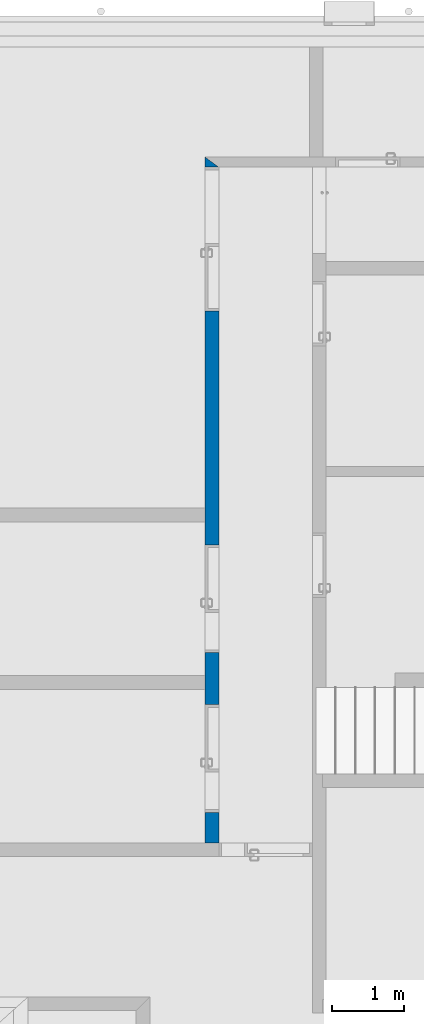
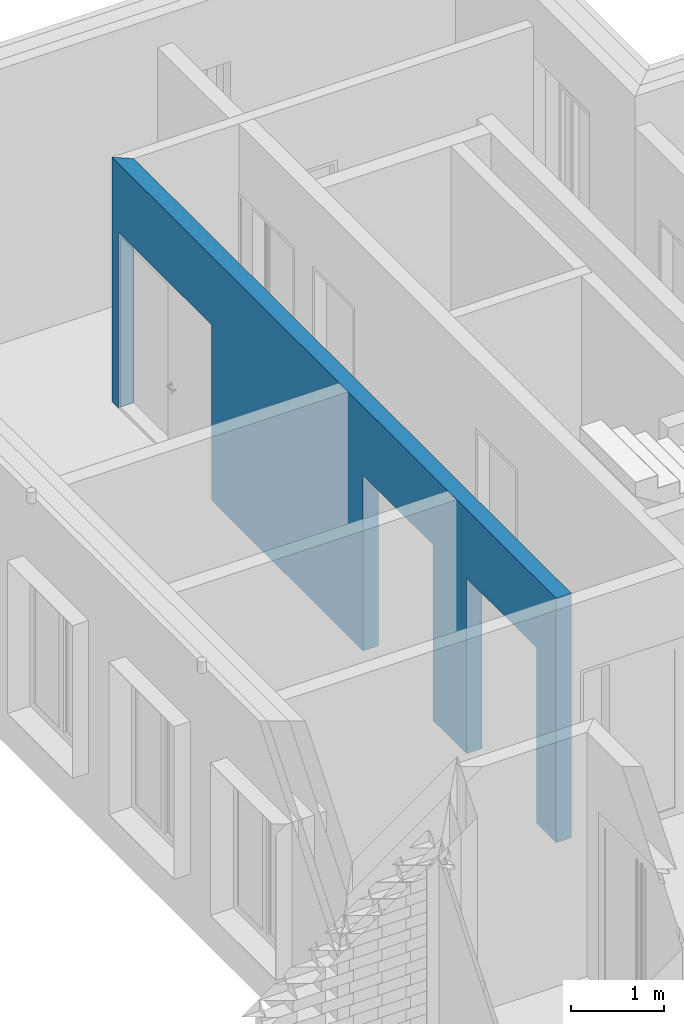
# One storey, part 8 of 62: 1 wall, 3 openings.
"""IFC2X3 building model written with IfcOpenShell, lengths in millimetres."""

from ifc_helpers import new_model, entity, si_unit, converted_unit, derived_unit, money_unit, direction, frame, origin_with_axes, origin_2d_with_axis, place, context, subcontext, project, spatial, polyline, rectangle, outline, extrude, material, layer, layer_set, layer_usage, type_object, element, save


model = new_model("IFC2X3")

# Units and contexts
model_context = context("Model", 3, precision=0.01, world=origin_with_axes(), true_north=direction((0.0, 1.0)))
body_context = subcontext(model_context, "Body", "Model", "MODEL_VIEW")
ifc_project = project(units=[si_unit("LENGTHUNIT", "METRE", prefix="MILLI"), si_unit("AREAUNIT", "SQUARE_METRE"), si_unit("VOLUMEUNIT", "CUBIC_METRE"), converted_unit("PLANEANGLEUNIT", "DEGREE", entity("IfcPlaneAngleMeasure", 0.0174532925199), si_unit("PLANEANGLEUNIT", "RADIAN"), dimensions=[0, 0, 0, 0, 0, 0, 0]), si_unit("SOLIDANGLEUNIT", "STERADIAN"), money_unit("EUR"), converted_unit("TIMEUNIT", "Year", entity("IfcTimeMeasure", 31556926.0), si_unit("TIMEUNIT", "SECOND"), dimensions=[0, 0, 1, 0, 0, 0, 0]), si_unit("MASSUNIT", "GRAM", prefix="KILO"), si_unit("THERMODYNAMICTEMPERATUREUNIT", "DEGREE_CELSIUS"), si_unit("LUMINOUSINTENSITYUNIT", "LUMEN"), si_unit("ENERGYUNIT", "JOULE", prefix="MEGA"), derived_unit("THERMALCONDUCTANCEUNIT", [(si_unit("POWERUNIT", "WATT"), 1), (si_unit("LENGTHUNIT", "METRE"), -1), (si_unit("THERMODYNAMICTEMPERATUREUNIT", "KELVIN"), -1)]), derived_unit("SPECIFICHEATCAPACITYUNIT", [(si_unit("ENERGYUNIT", "JOULE"), 1), (si_unit("MASSUNIT", "GRAM", prefix="KILO"), -1), (si_unit("THERMODYNAMICTEMPERATUREUNIT", "KELVIN"), -1)]), derived_unit("MASSDENSITYUNIT", [(si_unit("MASSUNIT", "GRAM", prefix="KILO"), 1), (si_unit("VOLUMEUNIT", "CUBIC_METRE"), -1)])], contexts=[model_context])

# Site, building, storey
site_placement = place(None, origin_with_axes())
site = spatial("IfcSite", under=ifc_project, at=site_placement, Name="KIRDE 14, ELVA", CompositionType="ELEMENT")
building_placement = place(site_placement, origin_with_axes())
building = spatial("IfcBuilding", under=site, at=building_placement, Name="PPA ja Päästeameti ühishoone", CompositionType="ELEMENT")
storey_placement = place(building_placement, origin_with_axes())
storey = spatial("IfcBuildingStorey", under=building, at=storey_placement, Name="Esimene korrus", CompositionType="ELEMENT", Elevation=0.0)

# Wall, openings
ifc_material = material(Name="COLUMBIA KIVI (BETONEERITUD)")
ifc_layer = layer(ifc_material, 190.0, ventilated="UNKNOWN")
ifc_layer_set = layer_set([ifc_layer], Name="SS-02")
ifc_layer_usage = layer_usage(ifc_layer_set, "AXIS2", "NEGATIVE", 0.0)
wall_type = type_object("IfcWallType", Name="SS-02 190", PredefinedType="USERDEFINED")
wall_placement = place(storey_placement, frame((3760.00021119, 13539.8831764, 0.0), z_axis=(0.0, 0.0, 1.0), x_axis=(0.0, 1.0, 0.0)))
wall = element("IfcWallStandardCase", 1, at=wall_placement, inside=storey, type_object=wall_type, material=ifc_layer_usage, Name="SS-02", ObjectType="PARTITIONING", context=body_context, shape_type="SweptSolid", body=[
    extrude(outline(polyline([(-1.29695187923e-06, -190.0), (9388.7049133, -190.0), (9528.7049133, 0.0), (-1.29695187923e-06, 0.0), (-1.29695187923e-06, -190.0)])), origin_with_axes(), (0.0, 0.0, 1.0), 3200.0),
])
opening_1_placement = place(wall_placement, frame((3391.74933679, 0.0, 0.0), z_axis=(0.0, 0.0, 1.0), x_axis=(1.0, 0.0, 0.0)))
element("IfcOpeningElement", 2, at=opening_1_placement, cuts=wall, Name="SU-27", context=body_context, shape_type="SweptSolid", body=[
    extrude(rectangle(XDim=1500.00026513, YDim=2300.0, at=origin_2d_with_axis()), frame((0.0, 190.0, 1150.0), z_axis=(0.0, -1.0, 0.0), x_axis=(1.0, 0.0, 0.0)), (0.0, 0.0, 1.0), 570.0),
])
opening_2_placement = place(wall_placement, frame((1173.14082488, 0.0, 0.0), z_axis=(0.0, 0.0, 1.0), x_axis=(1.0, 0.0, 0.0)))
element("IfcOpeningElement", 3, at=opening_2_placement, cuts=wall, Name="SU-27", context=body_context, shape_type="SweptSolid", body=[
    extrude(rectangle(XDim=1500.00026513, YDim=2300.0, at=origin_2d_with_axis()), frame((0.0, 190.0, 1150.0), z_axis=(0.0, -1.0, 0.0), x_axis=(1.0, 0.0, 0.0)), (0.0, 0.0, 1.0), 570.0),
])
opening_3_placement = place(wall_placement, frame((8388.70491117, 0.0, 0.0), z_axis=(0.0, 0.0, 1.0), x_axis=(1.0, 0.0, 0.0)))
element("IfcOpeningElement", 4, at=opening_3_placement, cuts=wall, Name="SU-28", context=body_context, shape_type="SweptSolid", body=[
    extrude(rectangle(XDim=2000.0, YDim=2300.0, at=origin_2d_with_axis()), frame((0.0, 190.0, 1150.0), z_axis=(0.0, 1.0, 0.0), x_axis=(-1.0, 0.0, 0.0)), (0.0, 0.0, -1.0), 570.0),
])

save(model, "model.ifc")
